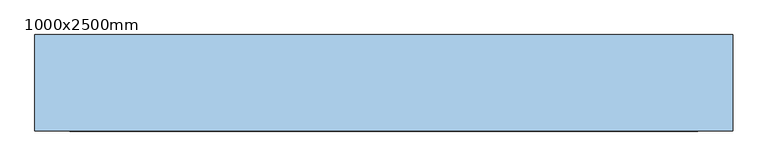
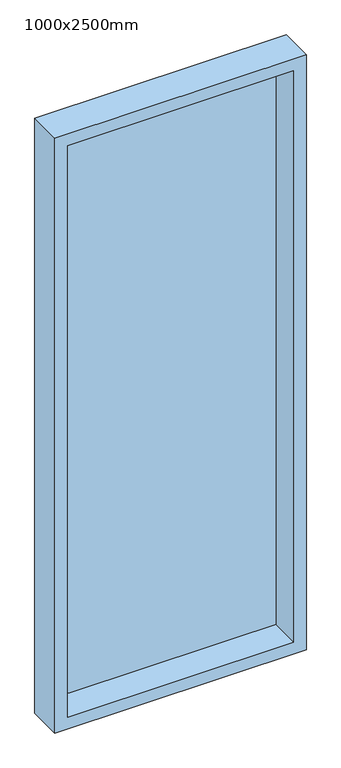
"""IFC4 building model written with IfcOpenShell, lengths in millimetres: window geometry, 单扇窗 : 1000x2500mm."""

from ifc_helpers import new_model, si_unit, frame, origin, place, context, project, spatial, polyline, outline, extrude, source, transform, mapped, element, save


def window_1000x2500mm_fe69bf6f(model_context):
    return source(origin(), model_context, "Body", "SweptSolid", [
        extrude(outline(polyline([(2500.0, 461.9), (2500.0, -538.1), (0.0, -538.1), (0.0, 461.9), (2500.0, 461.9)]), holes=[polyline([(2450.0, 411.9), (50.0, 411.9), (50.0, -488.1), (2450.0, -488.1), (2450.0, 411.9)])]), frame((0.0, -69.0, 0.0), z_axis=(0.0, 1.0, 0.0), x_axis=(0.0, 0.0, 1.0)), (0.0, 0.0, 1.0), 138.0),
        extrude(outline(polyline([(411.9, 52.5), (-488.1, 52.5), (-488.1, 57.5), (411.9, 57.5), (411.9, 52.5)])), frame((0.0, 0.0, 50.0), z_axis=(0.0, 0.0, 1.0), x_axis=(1.0, 0.0, 0.0)), (0.0, 0.0, 1.0), 2400.0),
    ])


if __name__ == "__main__":
    model = new_model("IFC4")
    model_context = context("Model", 3, world=origin())
    ifc_project = project(units=[si_unit("LENGTHUNIT", "METRE", prefix="MILLI")], contexts=[model_context])
    site = spatial("IfcSite", under=ifc_project)
    building = spatial("IfcBuilding", under=site)
    placement = place(None, origin())
    window_1000x2500mm_shape = window_1000x2500mm_fe69bf6f(model_context)
    element("IfcWindow", 1, ObjectType="单扇窗 : 1000x2500mm", at=placement, inside=building, context=model_context, shape_type="MappedRepresentation", body=[
        mapped(window_1000x2500mm_shape, transform((0.0, 0.0, 0.0), x_axis=(1.0, 0.0, 0.0), y_axis=(0.0, 1.0, 0.0), z_axis=(0.0, 0.0, 1.0))),
    ])
    save(model, "model.ifc")
